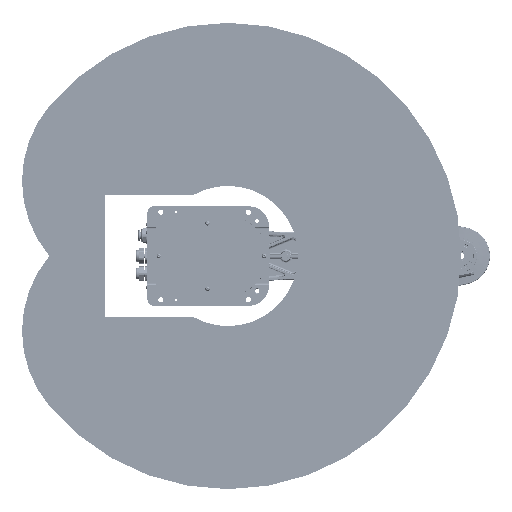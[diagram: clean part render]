
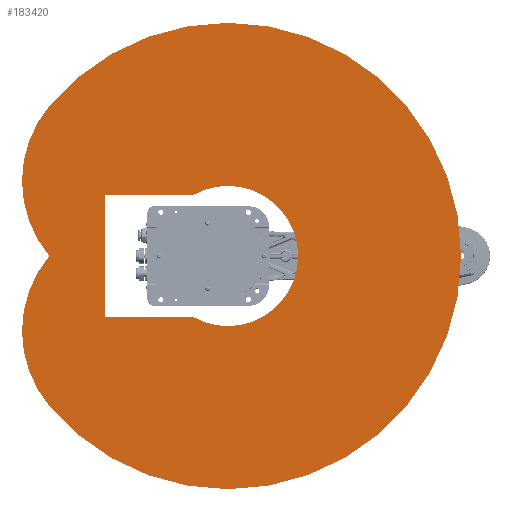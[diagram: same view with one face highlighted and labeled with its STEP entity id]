
A CAD part, front view. The second image highlights one B-rep face of the part: STEP entity #183420.
In plain terms, the highlighted planar face has unit normal (0, -1, 0).
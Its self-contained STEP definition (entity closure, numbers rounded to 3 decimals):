
#1495 = DIRECTION ( 'NONE',  ( -1., 0., 0. ) ) ;
#2581 = AXIS2_PLACEMENT_3D ( 'NONE', #42853, #105773, #168784 ) ;
#3745 = ORIENTED_EDGE ( 'NONE', *, *, #60937, .F. ) ;
#7759 = ORIENTED_EDGE ( 'NONE', *, *, #191352, .T. ) ;
#14066 = CARTESIAN_POINT ( 'NONE',  ( 306.418, 0., -257.115 ) ) ;
#14165 = FACE_OUTER_BOUND ( 'NONE', #93193, .T. ) ;
#20167 = DIRECTION ( 'NONE',  ( 0., 0., 1. ) ) ;
#21267 = ORIENTED_EDGE ( 'NONE', *, *, #146640, .T. ) ;
#22007 = LINE ( 'NONE', #80871, #92003 ) ;
#22549 = CIRCLE ( 'NONE', #114348, 200. ) ;
#22722 = DIRECTION ( 'NONE',  ( 0., 0., -1. ) ) ;
#24227 = CIRCLE ( 'NONE', #2581, 120.3 ) ;
#24491 = CARTESIAN_POINT ( 'NONE',  ( 0., 0., 0. ) ) ;
#24691 = AXIS2_PLACEMENT_3D ( 'NONE', #35740, #119185, #182240 ) ;
#30707 = ORIENTED_EDGE ( 'NONE', *, *, #32665, .F. ) ;
#32665 = EDGE_CURVE ( 'NONE', #109749, #50798, #60622, .T. ) ;
#34733 = PLANE ( 'NONE',  #257491 ) ;
#35740 = CARTESIAN_POINT ( 'NONE',  ( 0., 0., 0. ) ) ;
#37166 = AXIS2_PLACEMENT_3D ( 'NONE', #24491, #170948, #174979 ) ;
#42853 = CARTESIAN_POINT ( 'NONE',  ( 0., 0., 0. ) ) ;
#45240 = EDGE_CURVE ( 'NONE', #266898, #107775, #84902, .T. ) ;
#48126 = VERTEX_POINT ( 'NONE', #57307 ) ;
#50798 = VERTEX_POINT ( 'NONE', #196912 ) ;
#51301 = VECTOR ( 'NONE', #207057, 1000. ) ;
#55921 = ORIENTED_EDGE ( 'NONE', *, *, #209727, .T. ) ;
#57307 = CARTESIAN_POINT ( 'NONE',  ( 0., 0., -400. ) ) ;
#59882 = ORIENTED_EDGE ( 'NONE', *, *, #261216, .T. ) ;
#60622 = CIRCLE ( 'NONE', #104163, 200. ) ;
#60788 = CIRCLE ( 'NONE', #213861, 120.3 ) ;
#60937 = EDGE_CURVE ( 'NONE', #50798, #117970, #22549, .T. ) ;
#73157 = CARTESIAN_POINT ( 'NONE',  ( 0., 0., 0. ) ) ;
#73604 = ORIENTED_EDGE ( 'NONE', *, *, #271018, .T. ) ;
#77520 = CARTESIAN_POINT ( 'NONE',  ( 306.418, 0., 257.115 ) ) ;
#80871 = CARTESIAN_POINT ( 'NONE',  ( 58.712, 0., -105. ) ) ;
#83819 = DIRECTION ( 'NONE',  ( 0., 1., 0. ) ) ;
#84902 = CIRCLE ( 'NONE', #216089, 120.3 ) ;
#88559 = ORIENTED_EDGE ( 'NONE', *, *, #205066, .F. ) ;
#89494 = ORIENTED_EDGE ( 'NONE', *, *, #146277, .F. ) ;
#92003 = VECTOR ( 'NONE', #1495, 1000. ) ;
#93193 = EDGE_LOOP ( 'NONE', ( #30707, #89494, #88559, #248471, #3745 ) ) ;
#95805 = CARTESIAN_POINT ( 'NONE',  ( 210., 0., -105. ) ) ;
#101079 = VERTEX_POINT ( 'NONE', #153449 ) ;
#101605 = CARTESIAN_POINT ( 'NONE',  ( 58.712, 0., 105. ) ) ;
#102693 = CARTESIAN_POINT ( 'NONE',  ( 58.712, 0., 105. ) ) ;
#104163 = AXIS2_PLACEMENT_3D ( 'NONE', #236254, #108898, #22722 ) ;
#105773 = DIRECTION ( 'NONE',  ( 0., 1., 0. ) ) ;
#107775 = VERTEX_POINT ( 'NONE', #102693 ) ;
#108898 = DIRECTION ( 'NONE',  ( 0., 1., 0. ) ) ;
#109749 = VERTEX_POINT ( 'NONE', #77520 ) ;
#114348 = AXIS2_PLACEMENT_3D ( 'NONE', #227717, #83819, #126252 ) ;
#116828 = CARTESIAN_POINT ( 'NONE',  ( 76.604, 0., 64.279 ) ) ;
#117328 = VERTEX_POINT ( 'NONE', #254154 ) ;
#117970 = VERTEX_POINT ( 'NONE', #14066 ) ;
#119185 = DIRECTION ( 'NONE',  ( 0., 1., 0. ) ) ;
#119703 = CARTESIAN_POINT ( 'NONE',  ( 0., 0., 0. ) ) ;
#124147 = DIRECTION ( 'NONE',  ( 0., 1., 0. ) ) ;
#126252 = DIRECTION ( 'NONE',  ( 0., 0., 1. ) ) ;
#131749 = AXIS2_PLACEMENT_3D ( 'NONE', #119703, #219813, #140253 ) ;
#133395 = DIRECTION ( 'NONE',  ( 0., 1., 0. ) ) ;
#140253 = DIRECTION ( 'NONE',  ( 0., 0., 1. ) ) ;
#146277 = EDGE_CURVE ( 'NONE', #101079, #109749, #153661, .T. ) ;
#146640 = EDGE_CURVE ( 'NONE', #269154, #117328, #211349, .T. ) ;
#149809 = ORIENTED_EDGE ( 'NONE', *, *, #45240, .T. ) ;
#151289 = CIRCLE ( 'NONE', #24691, 400. ) ;
#153449 = CARTESIAN_POINT ( 'NONE',  ( 0., 0., 400. ) ) ;
#153661 = CIRCLE ( 'NONE', #131749, 400. ) ;
#162905 = EDGE_LOOP ( 'NONE', ( #59882, #55921, #7759, #149809, #73604, #21267 ) ) ;
#168784 = DIRECTION ( 'NONE',  ( 0., 0., 1. ) ) ;
#170383 = CARTESIAN_POINT ( 'NONE',  ( 0., 0., 120.3 ) ) ;
#170948 = DIRECTION ( 'NONE',  ( 0., 1., 0. ) ) ;
#174979 = DIRECTION ( 'NONE',  ( 0., 0., 1. ) ) ;
#178490 = DIRECTION ( 'NONE',  ( 0., -1., 0. ) ) ;
#182240 = DIRECTION ( 'NONE',  ( 0., 0., 1. ) ) ;
#183420 = ADVANCED_FACE ( 'NONE', ( #14165, #264745 ), #34733, .T. ) ;
#183559 = CARTESIAN_POINT ( 'NONE',  ( 0., 0., -120.3 ) ) ;
#183900 = CARTESIAN_POINT ( 'NONE',  ( 58.712, 0., -105. ) ) ;
#188492 = EDGE_CURVE ( 'NONE', #117970, #48126, #198777, .T. ) ;
#191352 = EDGE_CURVE ( 'NONE', #254153, #266898, #24227, .T. ) ;
#191471 = CARTESIAN_POINT ( 'NONE',  ( 210., 0., 105. ) ) ;
#196912 = CARTESIAN_POINT ( 'NONE',  ( 306.418, 0., 0. ) ) ;
#198777 = CIRCLE ( 'NONE', #37166, 400. ) ;
#200364 = DIRECTION ( 'NONE',  ( 0., 0., -1. ) ) ;
#205066 = EDGE_CURVE ( 'NONE', #48126, #101079, #151289, .T. ) ;
#205709 = LINE ( 'NONE', #101605, #51301 ) ;
#207057 = DIRECTION ( 'NONE',  ( 1., 0., 0. ) ) ;
#209727 = EDGE_CURVE ( 'NONE', #267085, #254153, #60788, .T. ) ;
#211349 = LINE ( 'NONE', #95805, #245790 ) ;
#213861 = AXIS2_PLACEMENT_3D ( 'NONE', #265374, #124147, #20167 ) ;
#216089 = AXIS2_PLACEMENT_3D ( 'NONE', #73157, #133395, #240241 ) ;
#219813 = DIRECTION ( 'NONE',  ( 0., 1., 0. ) ) ;
#227717 = CARTESIAN_POINT ( 'NONE',  ( 153.209, 0., -128.558 ) ) ;
#236254 = CARTESIAN_POINT ( 'NONE',  ( 153.209, 0., 128.558 ) ) ;
#240241 = DIRECTION ( 'NONE',  ( 0., 0., 1. ) ) ;
#245790 = VECTOR ( 'NONE', #262933, 1000. ) ;
#248471 = ORIENTED_EDGE ( 'NONE', *, *, #188492, .F. ) ;
#254153 = VERTEX_POINT ( 'NONE', #183559 ) ;
#254154 = CARTESIAN_POINT ( 'NONE',  ( 210., 0., -105. ) ) ;
#257491 = AXIS2_PLACEMENT_3D ( 'NONE', #116828, #178490, #200364 ) ;
#261216 = EDGE_CURVE ( 'NONE', #117328, #267085, #22007, .T. ) ;
#262933 = DIRECTION ( 'NONE',  ( 0., 0., -1. ) ) ;
#264745 = FACE_BOUND ( 'NONE', #162905, .T. ) ;
#265374 = CARTESIAN_POINT ( 'NONE',  ( 0., 0., 0. ) ) ;
#266898 = VERTEX_POINT ( 'NONE', #170383 ) ;
#267085 = VERTEX_POINT ( 'NONE', #183900 ) ;
#269154 = VERTEX_POINT ( 'NONE', #191471 ) ;
#271018 = EDGE_CURVE ( 'NONE', #107775, #269154, #205709, .T. ) ;
